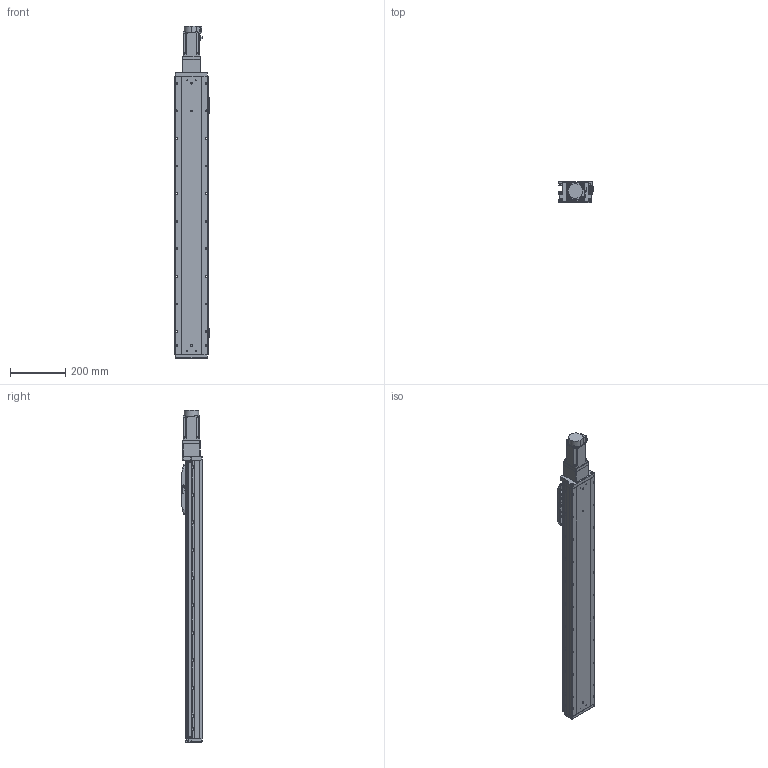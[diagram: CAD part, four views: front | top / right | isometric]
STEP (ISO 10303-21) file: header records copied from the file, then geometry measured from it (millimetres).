
FILE_DESCRIPTION (( 'STEP AP203' ), '1' );
FILE_NAME ('GTH12-800-BC-M40-C4.step', '2022-09-23T01:15:58', ( '微软用户' ), ( '微软中国' ), 'SwSTEP 2.0', 'SolidWorks 2020', '' );
FILE_SCHEMA (( 'CONFIG_CONTROL_DESIGN' ));
Length unit declared in the file: millimetre
Products named in the file (19): GBT 70.1-M3℅6; GBT96.1-2002 3×0.8; GBT 70.1-M5×16; BTH-M3X5X6; GTH120-001_800; GBT 70.3-M3℅8; CTHA86-006-1_CTHA86-006-2; GTH120-003; GTH80-022; CTHA86-013; GTH120-006; GTH80-028; CTHA86-027; GTH120-004; GTH50-023; hg-kn43j_-s100_; GTH120-013; GTH50-024; GTH12-800-BC-M40-C4
Assembly tree (62 placements, depth 2):
  GTH12-800-BC-M40-C4
    GTH120-001_800
    GTH120-003
    GTH120-006
    GTH120-004
    GTH120-013
    GBT 70.1-M3℅6  x14
    GBT 70.1-M5×16  x10
    GBT 70.3-M3℅8  x6
    GTH80-022
    GTH80-028  x2
    GTH50-023  x3
    GTH50-024  x3
    GBT96.1-2002 3×0.8  x6
    BTH-M3X5X6  x8
    CTHA86-006-1_CTHA86-006-2
    CTHA86-013
    CTHA86-027
    hg-kn43j_-s100_
Bounding box: 125.7 x 76 x 1203.7 mm (x, y, z)
Volume: 7658088.4 mm3; surface area: 678448.1 mm2
Topology: 64 solids, 64 shells, 2510 faces, 5835 edges, 3557 vertices
Faces by surface type: plane 1272, cylinder 721, cone 339, torus 170, sphere 8
Entity records: 45728 total; most frequent: DIRECTION 7661, CARTESIAN_POINT 7350, ORIENTED_EDGE 7052, EDGE_CURVE 3526, AXIS2_PLACEMENT_3D 2677, LINE 2307, VECTOR 2307, VERTEX_POINT 2216
